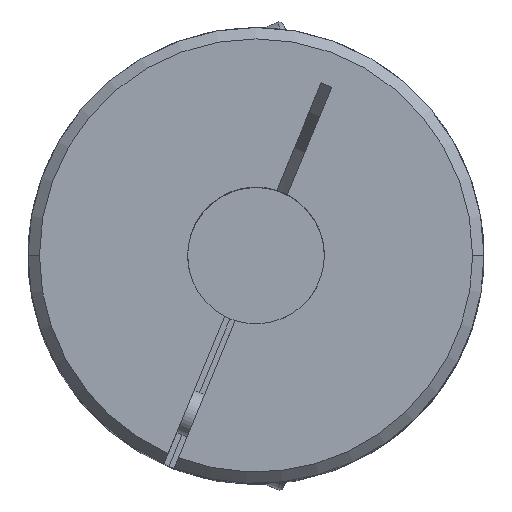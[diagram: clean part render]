
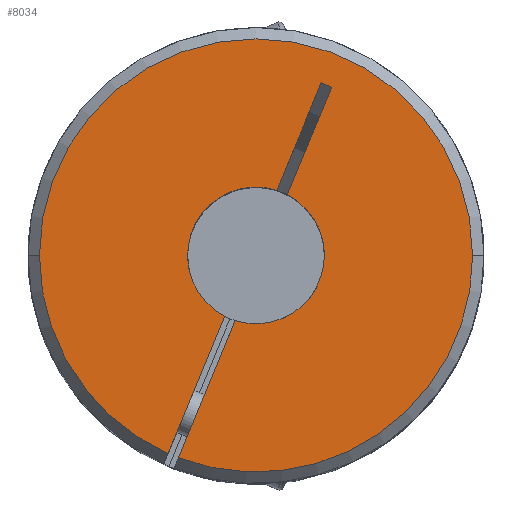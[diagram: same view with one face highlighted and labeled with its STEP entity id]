
A CAD part, top view. The second image highlights one B-rep face of the part: STEP entity #8034.
In plain terms, the highlighted planar face has unit normal (0, 0, 1).
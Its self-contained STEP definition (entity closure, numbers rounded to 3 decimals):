
#2538=CARTESIAN_POINT('',(0.,0.,57.05));
#2539=DIRECTION('',(0.,0.,-1.));
#2540=DIRECTION('',(0.458,0.889,0.));
#2541=AXIS2_PLACEMENT_3D('',#2538,#2539,#2540);
#2580=DIRECTION('',(0.382,0.924,0.));
#2581=VECTOR('',#2580,26.029);
#2582=CARTESIAN_POINT('',(-15.442,-34.721,57.05));
#2583=LINE('',#2582,#2581);
#2584=DIRECTION('',(0.382,0.924,0.));
#2585=VECTOR('',#2584,20.403);
#2586=CARTESIAN_POINT('',(3.646,11.433,57.05));
#2587=LINE('',#2586,#2585);
#2681=DIRECTION('',(-0.382,-0.924,0.));
#2682=VECTOR('',#2681,26.029);
#2683=CARTESIAN_POINT('',(-3.646,-11.433,57.05));
#2684=LINE('',#2683,#2682);
#2685=DIRECTION('',(-0.382,-0.924,0.));
#2686=VECTOR('',#2685,20.403);
#2687=CARTESIAN_POINT('',(13.292,29.523,57.05));
#2688=LINE('',#2687,#2686);
#2702=CARTESIAN_POINT('',(0.,0.,57.05));
#2703=DIRECTION('',(0.,0.,1.));
#2704=DIRECTION('',(-1.,0.,0.));
#2705=AXIS2_PLACEMENT_3D('',#2702,#2703,#2704);
#2707=CARTESIAN_POINT('',(0.,0.,57.05));
#2708=DIRECTION('',(0.,0.,1.));
#2709=DIRECTION('',(1.,0.,0.));
#2710=AXIS2_PLACEMENT_3D('',#2707,#2708,#2709);
#2712=CARTESIAN_POINT('',(0.,0.,57.05));
#2713=DIRECTION('',(0.,0.,1.));
#2714=DIRECTION('',(-0.358,-0.934,0.));
#2715=AXIS2_PLACEMENT_3D('',#2712,#2713,#2714);
#2717=DIRECTION('',(0.924,-0.382,0.));
#2718=VECTOR('',#2717,2.);
#2719=CARTESIAN_POINT('',(11.444,30.287,57.05));
#2720=LINE('',#2719,#2718);
#2721=CARTESIAN_POINT('',(0.,0.,57.05));
#2722=DIRECTION('',(0.,0.,-1.));
#2723=DIRECTION('',(-0.458,-0.889,0.));
#2724=AXIS2_PLACEMENT_3D('',#2721,#2722,#2723);
#2801=CARTESIAN_POINT('',(-13.594,-35.485,57.05));
#4680=VERTEX_POINT('',#2801);
#4720=CARTESIAN_POINT('',(11.444,30.287,57.05));
#4721=CARTESIAN_POINT('',(13.292,29.523,57.05));
#4722=VERTEX_POINT('',#4720);
#4723=VERTEX_POINT('',#4721);
#4891=CARTESIAN_POINT('',(38.,0.,57.05));
#4892=VERTEX_POINT('',#4891);
#5280=CARTESIAN_POINT('',(-38.,0.,57.05));
#5281=VERTEX_POINT('',#5280);
#5282=CARTESIAN_POINT('',(-15.442,-34.721,57.05));
#5283=VERTEX_POINT('',#5282);
#5305=CARTESIAN_POINT('',(-3.646,-11.433,57.05));
#5307=VERTEX_POINT('',#5305);
#5308=CARTESIAN_POINT('',(5.494,10.668,57.05));
#5309=VERTEX_POINT('',#5308);
#5310=CARTESIAN_POINT('',(-5.494,-10.668,57.05));
#5311=VERTEX_POINT('',#5310);
#5312=CARTESIAN_POINT('',(3.646,11.433,57.05));
#5313=VERTEX_POINT('',#5312);
#8013=CARTESIAN_POINT('',(0.,0.,57.05));
#8014=DIRECTION('',(0.,0.,1.));
#8015=DIRECTION('',(1.,0.,0.));
#8016=AXIS2_PLACEMENT_3D('',#8013,#8014,#8015);
#8017=PLANE('',#8016);
#8019=ORIENTED_EDGE('',*,*,#8018,.F.);
#8020=ORIENTED_EDGE('',*,*,#7824,.F.);
#8022=ORIENTED_EDGE('',*,*,#8021,.F.);
#8024=ORIENTED_EDGE('',*,*,#8023,.F.);
#8026=ORIENTED_EDGE('',*,*,#8025,.F.);
#8027=ORIENTED_EDGE('',*,*,#7972,.F.);
#8028=ORIENTED_EDGE('',*,*,#7775,.F.);
#8029=ORIENTED_EDGE('',*,*,#7993,.F.);
#8030=ORIENTED_EDGE('',*,*,#7804,.F.);
#8031=ORIENTED_EDGE('',*,*,#7842,.F.);
#8032=EDGE_LOOP('',(#8019,#8020,#8022,#8024,#8026,#8027,#8028,#8029,#8030,
#8031));
#8033=FACE_OUTER_BOUND('',#8032,.F.);
#2542=CIRCLE('',#2541,12.);
#2706=CIRCLE('',#2705,38.);
#2711=CIRCLE('',#2710,38.);
#2716=CIRCLE('',#2715,38.);
#2725=CIRCLE('',#2724,12.);
#7775=EDGE_CURVE('',#5309,#5307,#2542,.T.);
#7804=EDGE_CURVE('',#4722,#4723,#2720,.T.);
#7824=EDGE_CURVE('',#5283,#5311,#2583,.T.);
#7842=EDGE_CURVE('',#5313,#4722,#2587,.T.);
#7972=EDGE_CURVE('',#5307,#4680,#2684,.T.);
#7993=EDGE_CURVE('',#4723,#5309,#2688,.T.);
#8018=EDGE_CURVE('',#5311,#5313,#2725,.T.);
#8021=EDGE_CURVE('',#5281,#5283,#2706,.T.);
#8023=EDGE_CURVE('',#4892,#5281,#2711,.T.);
#8025=EDGE_CURVE('',#4680,#4892,#2716,.T.);
#8034=ADVANCED_FACE('',(#8033),#8017,.T.);
